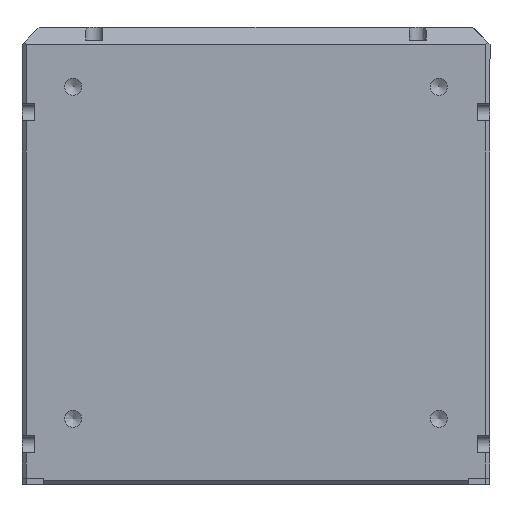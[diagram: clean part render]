
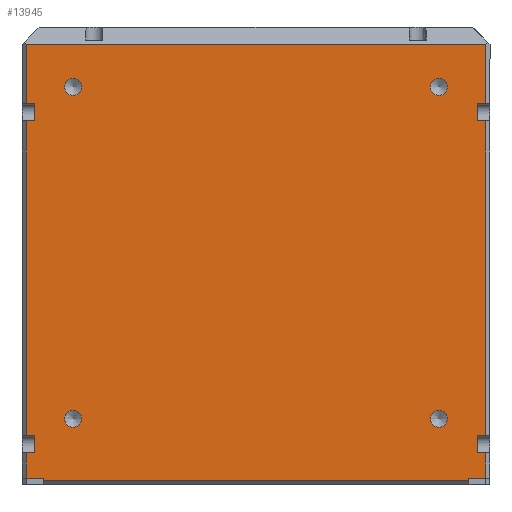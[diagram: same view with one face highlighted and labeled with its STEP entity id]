
A CAD part, front view. The second image highlights one B-rep face of the part: STEP entity #13945.
In plain terms, the highlighted planar face has unit normal (0, -1, 0).
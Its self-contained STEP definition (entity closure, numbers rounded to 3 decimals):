
#432=CARTESIAN_POINT('',(50.,-74.0,-100.0));
#433=VERTEX_POINT('',#432);
#440=CARTESIAN_POINT('',(50.,-74.,-100.5));
#441=VERTEX_POINT('',#440);
#442=CARTESIAN_POINT('',(50.,-74.,-100.5));
#443=DIRECTION('',(0.0,0.0,1.0));
#444=VECTOR('',#443,0.5);
#445=LINE('',#442,#444);
#446=EDGE_CURVE('',#441,#433,#445,.T.);
#2499=CARTESIAN_POINT('',(-50.0,-74.,-100.0));
#2500=VERTEX_POINT('',#2499);
#2507=CARTESIAN_POINT('',(-54.0,-74.,-100.0));
#2508=VERTEX_POINT('',#2507);
#2509=CARTESIAN_POINT('',(-54.,-74.,-100.0));
#2510=DIRECTION('',(1.0,0.0,0.0));
#2511=VECTOR('',#2510,4.0);
#2512=LINE('',#2509,#2511);
#2513=EDGE_CURVE('',#2508,#2500,#2512,.T.);
#2580=CARTESIAN_POINT('',(54.,-74.0,-100.0));
#2581=VERTEX_POINT('',#2580);
#2588=CARTESIAN_POINT('',(54.,-74.0,-100.0));
#2589=DIRECTION('',(-1.0,0.0,0.0));
#2590=VECTOR('',#2589,4.0);
#2591=LINE('',#2588,#2590);
#2592=EDGE_CURVE('',#2581,#433,#2591,.T.);
#6584=CARTESIAN_POINT('',(-50.,-74.,-100.5));
#6585=VERTEX_POINT('',#6584);
#6592=CARTESIAN_POINT('',(-50.,-74.,-100.));
#6593=DIRECTION('',(0.0,0.0,-1.0));
#6594=VECTOR('',#6593,0.5);
#6595=LINE('',#6592,#6594);
#6596=EDGE_CURVE('',#2500,#6585,#6595,.T.);
#6719=CARTESIAN_POINT('',(50.0,-74.,-100.5));
#6720=DIRECTION('',(-1.0,0.0,0.0));
#6721=VECTOR('',#6720,100.0);
#6722=LINE('',#6719,#6721);
#6723=EDGE_CURVE('',#441,#6585,#6722,.T.);
#6816=CARTESIAN_POINT('',(45.,-74.,-86.));
#6817=VERTEX_POINT('',#6816);
#6818=CARTESIAN_POINT('',(43.,-74.,-86.));
#6819=DIRECTION('',(0.0,1.0,0.0));
#6820=DIRECTION('',(1.0,0.0,0.0));
#6821=AXIS2_PLACEMENT_3D('',#6818,#6819,#6820);
#6822=CIRCLE('',#6821,2.0);
#6823=EDGE_CURVE('',#6817,#6817,#6822,.T.);
#6895=CARTESIAN_POINT('',(-41.,-74.,-86.));
#6896=VERTEX_POINT('',#6895);
#6897=CARTESIAN_POINT('',(-43.,-74.,-86.));
#6898=DIRECTION('',(0.0,1.0,0.0));
#6899=DIRECTION('',(1.0,0.0,0.0));
#6900=AXIS2_PLACEMENT_3D('',#6897,#6898,#6899);
#6901=CIRCLE('',#6900,2.0);
#6902=EDGE_CURVE('',#6896,#6896,#6901,.T.);
#6974=CARTESIAN_POINT('',(-41.,-74.0,-8.));
#6975=VERTEX_POINT('',#6974);
#6976=CARTESIAN_POINT('',(-43.,-74.0,-8.));
#6977=DIRECTION('',(0.0,1.0,0.0));
#6978=DIRECTION('',(1.0,0.0,0.0));
#6979=AXIS2_PLACEMENT_3D('',#6976,#6977,#6978);
#6980=CIRCLE('',#6979,2.0);
#6981=EDGE_CURVE('',#6975,#6975,#6980,.T.);
#7053=CARTESIAN_POINT('',(45.,-74.0,-8.));
#7054=VERTEX_POINT('',#7053);
#7055=CARTESIAN_POINT('',(43.,-74.0,-8.));
#7056=DIRECTION('',(0.0,1.0,0.0));
#7057=DIRECTION('',(1.0,0.0,0.0));
#7058=AXIS2_PLACEMENT_3D('',#7055,#7056,#7057);
#7059=CIRCLE('',#7058,2.0);
#7060=EDGE_CURVE('',#7054,#7054,#7059,.T.);
#7675=CARTESIAN_POINT('',(54.,-74.0,-90.));
#7676=VERTEX_POINT('',#7675);
#7693=CARTESIAN_POINT('',(54.,-74.0,-16.));
#7694=VERTEX_POINT('',#7693);
#7701=CARTESIAN_POINT('',(54.,-74.0,-16.));
#7702=DIRECTION('',(0.0,0.0,-1.0));
#7703=VECTOR('',#7702,74.0);
#7704=LINE('',#7701,#7703);
#7705=EDGE_CURVE('',#7694,#7676,#7704,.T.);
#7732=CARTESIAN_POINT('',(52.,-74.0,-16.));
#7733=VERTEX_POINT('',#7732);
#7740=CARTESIAN_POINT('',(54.,-74.0,-16.));
#7741=DIRECTION('',(-1.0,0.0,0.0));
#7742=VECTOR('',#7741,2.0);
#7743=LINE('',#7740,#7742);
#7744=EDGE_CURVE('',#7694,#7733,#7743,.T.);
#7763=CARTESIAN_POINT('',(54.,-74.0,-94.));
#7764=VERTEX_POINT('',#7763);
#7771=CARTESIAN_POINT('',(54.,-74.0,-94.));
#7772=DIRECTION('',(0.0,0.0,-1.0));
#7773=VECTOR('',#7772,6.);
#7774=LINE('',#7771,#7773);
#7775=EDGE_CURVE('',#7764,#2581,#7774,.T.);
#7802=CARTESIAN_POINT('',(52.,-74.0,-94.));
#7803=VERTEX_POINT('',#7802);
#7810=CARTESIAN_POINT('',(54.,-74.0,-94.));
#7811=DIRECTION('',(-1.0,0.0,0.0));
#7812=VECTOR('',#7811,2.0);
#7813=LINE('',#7810,#7812);
#7814=EDGE_CURVE('',#7764,#7803,#7813,.T.);
#8021=CARTESIAN_POINT('',(54.,-74.0,-12.));
#8022=VERTEX_POINT('',#8021);
#8031=CARTESIAN_POINT('',(52.,-74.0,-12.));
#8032=VERTEX_POINT('',#8031);
#8033=CARTESIAN_POINT('',(52.,-74.0,-12.));
#8034=DIRECTION('',(1.0,0.0,0.0));
#8035=VECTOR('',#8034,2.0);
#8036=LINE('',#8033,#8035);
#8037=EDGE_CURVE('',#8032,#8022,#8036,.T.);
#8070=CARTESIAN_POINT('',(52.,-74.0,-90.));
#8071=VERTEX_POINT('',#8070);
#8072=CARTESIAN_POINT('',(52.,-74.0,-90.));
#8073=DIRECTION('',(1.0,0.0,0.0));
#8074=VECTOR('',#8073,2.0);
#8075=LINE('',#8072,#8074);
#8076=EDGE_CURVE('',#8071,#7676,#8075,.T.);
#8458=CARTESIAN_POINT('',(52.,-74.0,-16.));
#8459=DIRECTION('',(0.0,0.0,1.0));
#8460=VECTOR('',#8459,4.);
#8461=LINE('',#8458,#8460);
#8462=EDGE_CURVE('',#7733,#8032,#8461,.T.);
#8564=CARTESIAN_POINT('',(52.,-74.0,-94.));
#8565=DIRECTION('',(0.0,0.0,1.0));
#8566=VECTOR('',#8565,4.);
#8567=LINE('',#8564,#8566);
#8568=EDGE_CURVE('',#7803,#8071,#8567,.T.);
#9847=CARTESIAN_POINT('',(-54.0,-74.,-12.));
#9848=VERTEX_POINT('',#9847);
#9871=CARTESIAN_POINT('',(-52.0,-74.,-12.));
#9872=VERTEX_POINT('',#9871);
#9879=CARTESIAN_POINT('',(-54.,-74.,-12.));
#9880=DIRECTION('',(1.0,0.0,0.0));
#9881=VECTOR('',#9880,2.0);
#9882=LINE('',#9879,#9881);
#9883=EDGE_CURVE('',#9848,#9872,#9882,.T.);
#9893=CARTESIAN_POINT('',(-54.0,-74.,-16.));
#9894=VERTEX_POINT('',#9893);
#9911=CARTESIAN_POINT('',(-54.0,-74.,-90.));
#9912=VERTEX_POINT('',#9911);
#9919=CARTESIAN_POINT('',(-54.0,-74.,-90.));
#9920=DIRECTION('',(0.0,0.0,1.0));
#9921=VECTOR('',#9920,74.);
#9922=LINE('',#9919,#9921);
#9923=EDGE_CURVE('',#9912,#9894,#9922,.T.);
#9950=CARTESIAN_POINT('',(-52.0,-74.,-90.));
#9951=VERTEX_POINT('',#9950);
#9958=CARTESIAN_POINT('',(-54.,-74.,-90.));
#9959=DIRECTION('',(1.0,0.0,0.0));
#9960=VECTOR('',#9959,2.0);
#9961=LINE('',#9958,#9960);
#9962=EDGE_CURVE('',#9912,#9951,#9961,.T.);
#9973=CARTESIAN_POINT('',(-54.0,-74.,-94.));
#9974=VERTEX_POINT('',#9973);
#9975=CARTESIAN_POINT('',(-54.0,-74.,-100.0));
#9976=DIRECTION('',(0.0,0.0,1.0));
#9977=VECTOR('',#9976,6.);
#9978=LINE('',#9975,#9977);
#9979=EDGE_CURVE('',#2508,#9974,#9978,.T.);
#10240=CARTESIAN_POINT('',(-52.0,-74.,-16.));
#10241=VERTEX_POINT('',#10240);
#10242=CARTESIAN_POINT('',(-52.,-74.,-16.));
#10243=DIRECTION('',(-1.0,0.0,0.0));
#10244=VECTOR('',#10243,2.0);
#10245=LINE('',#10242,#10244);
#10246=EDGE_CURVE('',#10241,#9894,#10245,.T.);
#10279=CARTESIAN_POINT('',(-52.0,-74.,-94.));
#10280=VERTEX_POINT('',#10279);
#10281=CARTESIAN_POINT('',(-52.,-74.,-94.));
#10282=DIRECTION('',(-1.0,0.0,0.0));
#10283=VECTOR('',#10282,2.0);
#10284=LINE('',#10281,#10283);
#10285=EDGE_CURVE('',#10280,#9974,#10284,.T.);
#10834=CARTESIAN_POINT('',(-52.0,-74.,-90.));
#10835=DIRECTION('',(0.0,0.0,-1.0));
#10836=VECTOR('',#10835,4.0);
#10837=LINE('',#10834,#10836);
#10838=EDGE_CURVE('',#9951,#10280,#10837,.T.);
#10895=CARTESIAN_POINT('',(-52.0,-74.,-12.));
#10896=DIRECTION('',(0.0,0.0,-1.0));
#10897=VECTOR('',#10896,4.);
#10898=LINE('',#10895,#10897);
#10899=EDGE_CURVE('',#9872,#10241,#10898,.T.);
#13772=CARTESIAN_POINT('',(-54.0,-74.0,2.));
#13773=VERTEX_POINT('',#13772);
#13774=CARTESIAN_POINT('',(-54.0,-74.,-12.));
#13775=DIRECTION('',(0.0,0.0,1.0));
#13776=VECTOR('',#13775,14.);
#13777=LINE('',#13774,#13776);
#13778=EDGE_CURVE('',#9848,#13773,#13777,.T.);
#13795=CARTESIAN_POINT('',(54.0,-74.0,2.));
#13796=VERTEX_POINT('',#13795);
#13797=CARTESIAN_POINT('',(54.0,-74.0,2.));
#13798=DIRECTION('',(-1.0,0.0,0.0));
#13799=VECTOR('',#13798,108.0);
#13800=LINE('',#13797,#13799);
#13801=EDGE_CURVE('',#13796,#13773,#13800,.T.);
#13897=CARTESIAN_POINT('',(55.0,-74.0,0.0));
#13898=DIRECTION('',(0.0,-1.0,0.0));
#13899=DIRECTION('',(0.0,0.0,-1.0));
#13900=AXIS2_PLACEMENT_3D('',#13897,#13898,#13899);
#13901=PLANE('',#13900);
#13902=ORIENTED_EDGE('',*,*,#13778,.F.);
#13903=ORIENTED_EDGE('',*,*,#9883,.T.);
#13904=ORIENTED_EDGE('',*,*,#10899,.T.);
#13905=ORIENTED_EDGE('',*,*,#10246,.T.);
#13906=ORIENTED_EDGE('',*,*,#9923,.F.);
#13907=ORIENTED_EDGE('',*,*,#9962,.T.);
#13908=ORIENTED_EDGE('',*,*,#10838,.T.);
#13909=ORIENTED_EDGE('',*,*,#10285,.T.);
#13910=ORIENTED_EDGE('',*,*,#9979,.F.);
#13911=ORIENTED_EDGE('',*,*,#2513,.T.);
#13912=ORIENTED_EDGE('',*,*,#6596,.T.);
#13913=ORIENTED_EDGE('',*,*,#6723,.F.);
#13914=ORIENTED_EDGE('',*,*,#446,.T.);
#13915=ORIENTED_EDGE('',*,*,#2592,.F.);
#13916=ORIENTED_EDGE('',*,*,#7775,.F.);
#13917=ORIENTED_EDGE('',*,*,#7814,.T.);
#13918=ORIENTED_EDGE('',*,*,#8568,.T.);
#13919=ORIENTED_EDGE('',*,*,#8076,.T.);
#13920=ORIENTED_EDGE('',*,*,#7705,.F.);
#13921=ORIENTED_EDGE('',*,*,#7744,.T.);
#13922=ORIENTED_EDGE('',*,*,#8462,.T.);
#13923=ORIENTED_EDGE('',*,*,#8037,.T.);
#13924=CARTESIAN_POINT('',(54.0,-74.0,2.));
#13925=DIRECTION('',(0.0,0.0,-1.0));
#13926=VECTOR('',#13925,14.);
#13927=LINE('',#13924,#13926);
#13928=EDGE_CURVE('',#13796,#8022,#13927,.T.);
#13929=ORIENTED_EDGE('',*,*,#13928,.F.);
#13930=ORIENTED_EDGE('',*,*,#13801,.T.);
#13931=EDGE_LOOP('',(#13902,#13903,#13904,#13905,#13906,#13907,#13908,#13909,#13910,#13911,#13912,#13913,#13914,#13915,#13916,#13917,#13918,#13919,#13920,#13921,#13922,#13923,#13929,#13930));
#13932=FACE_OUTER_BOUND('',#13931,.T.);
#13933=ORIENTED_EDGE('',*,*,#7060,.T.);
#13934=EDGE_LOOP('',(#13933));
#13935=FACE_BOUND('',#13934,.T.);
#13936=ORIENTED_EDGE('',*,*,#6981,.T.);
#13937=EDGE_LOOP('',(#13936));
#13938=FACE_BOUND('',#13937,.T.);
#13939=ORIENTED_EDGE('',*,*,#6902,.T.);
#13940=EDGE_LOOP('',(#13939));
#13941=FACE_BOUND('',#13940,.T.);
#13942=ORIENTED_EDGE('',*,*,#6823,.T.);
#13943=EDGE_LOOP('',(#13942));
#13944=FACE_BOUND('',#13943,.T.);
#13945=ADVANCED_FACE('',(#13932,#13935,#13938,#13941,#13944),#13901,.T.);
